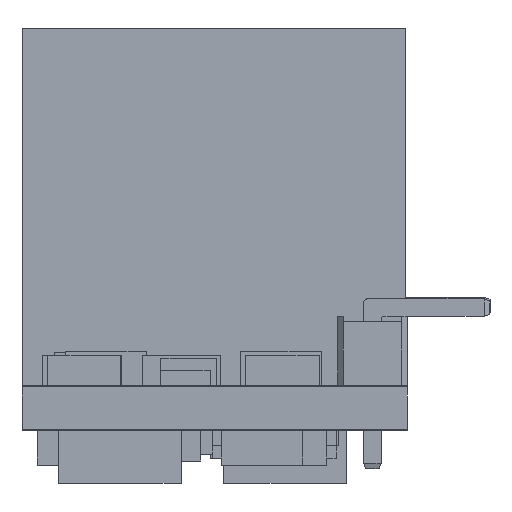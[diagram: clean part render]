
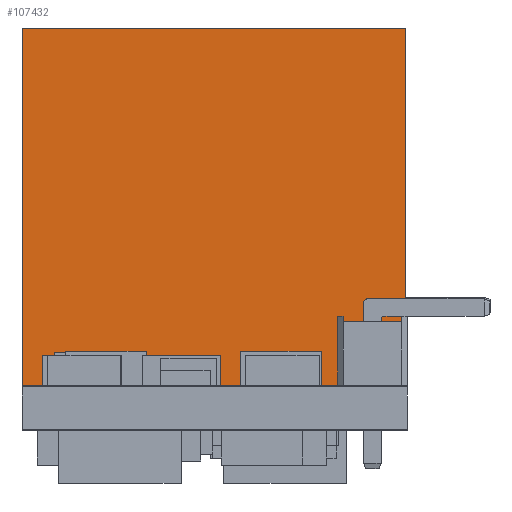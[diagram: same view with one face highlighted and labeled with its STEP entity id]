
A CAD part, left-side view. The second image highlights one B-rep face of the part: STEP entity #107432.
In plain terms, the highlighted face is a extrusion surface.
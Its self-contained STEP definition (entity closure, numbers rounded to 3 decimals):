
#70589 = VERTEX_POINT('',#70590);
#70590 = CARTESIAN_POINT('',(19.101,12.751,13.005));
#70596 = EDGE_CURVE('',#70589,#70597,#70599,.T.);
#70597 = VERTEX_POINT('',#70598);
#70598 = CARTESIAN_POINT('',(19.101,-1.219,13.005));
#70599 = LINE('',#70600,#70601);
#70600 = CARTESIAN_POINT('',(19.101,12.751,13.005));
#70601 = VECTOR('',#70602,1.);
#70602 = DIRECTION('',(0.,-1.,0.));
#70621 = EDGE_CURVE('',#70597,#70622,#70624,.T.);
#70622 = VERTEX_POINT('',#70623);
#70623 = CARTESIAN_POINT('',(19.101,-1.219,0.));
#70624 = LINE('',#70625,#70626);
#70625 = CARTESIAN_POINT('',(19.101,-1.219,13.005));
#70626 = VECTOR('',#70627,1.);
#70627 = DIRECTION('',(0.,0.,-1.));
#79581 = VERTEX_POINT('',#79582);
#79582 = CARTESIAN_POINT('',(19.101,12.751,0.));
#107419 = EDGE_CURVE('',#70622,#79581,#107420,.T.);
#107420 = LINE('',#107421,#107422);
#107421 = CARTESIAN_POINT('',(19.101,-1.219,0.));
#107422 = VECTOR('',#107423,1.);
#107423 = DIRECTION('',(0.,1.,0.));
#107432 = ADVANCED_FACE('',(#107433),#107444,.F.);
#107433 = FACE_BOUND('',#107434,.F.);
#107434 = EDGE_LOOP('',(#107435,#107436,#107442,#107443));
#107435 = ORIENTED_EDGE('',*,*,#70596,.F.);
#107436 = ORIENTED_EDGE('',*,*,#107437,.T.);
#107437 = EDGE_CURVE('',#70589,#79581,#107438,.T.);
#107438 = LINE('',#107439,#107440);
#107439 = CARTESIAN_POINT('',(19.101,12.751,13.005));
#107440 = VECTOR('',#107441,1.);
#107441 = DIRECTION('',(0.,0.,-1.));
#107442 = ORIENTED_EDGE('',*,*,#107419,.F.);
#107443 = ORIENTED_EDGE('',*,*,#70621,.F.);
#107444 = SURFACE_OF_LINEAR_EXTRUSION('',#107445,#107449);
#107445 = LINE('',#107446,#107447);
#107446 = CARTESIAN_POINT('',(19.101,-1.219,0.));
#107447 = VECTOR('',#107448,1.);
#107448 = DIRECTION('',(0.,0.,1.));
#107449 = VECTOR('',#107450,1.);
#107450 = DIRECTION('',(0.,1.,0.));
